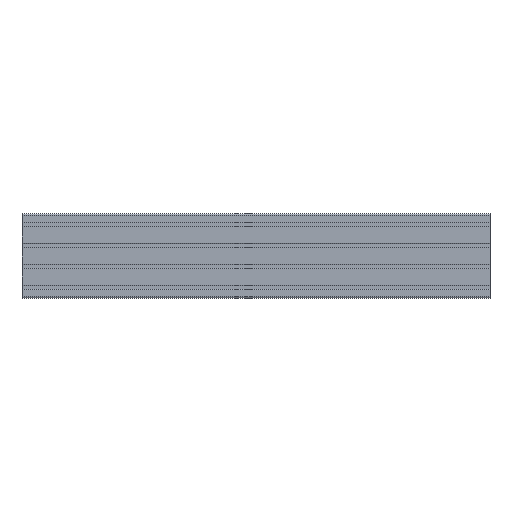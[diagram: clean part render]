
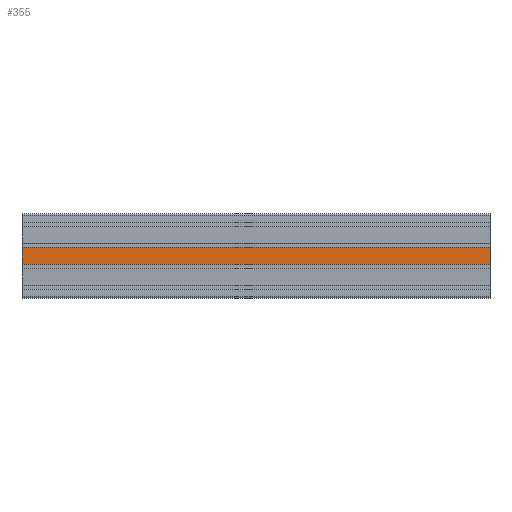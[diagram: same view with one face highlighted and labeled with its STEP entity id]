
A CAD part, top view. The second image highlights one B-rep face of the part: STEP entity #355.
In plain terms, the highlighted planar face has unit normal (0, 0, 1).
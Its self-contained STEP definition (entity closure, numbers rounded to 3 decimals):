
#355 = ADVANCED_FACE ( 'NONE', ( #11067 ), #17740, .F. ) ;
#628 = ORIENTED_EDGE ( 'NONE', *, *, #8828, .F. ) ;
#1111 = DIRECTION ( 'NONE',  ( -1., 0., 0. ) ) ;
#1618 = CARTESIAN_POINT ( 'NONE',  ( 1000., 18.1, 45. ) ) ;
#3577 = ORIENTED_EDGE ( 'NONE', *, *, #8143, .T. ) ;
#4454 = CARTESIAN_POINT ( 'NONE',  ( 1000., 18.1, 45. ) ) ;
#5371 = VECTOR ( 'NONE', #7829, 1000. ) ;
#5713 = EDGE_CURVE ( 'NONE', #20908, #7038, #12398, .T. ) ;
#6100 = LINE ( 'NONE', #16030, #5371 ) ;
#6180 = DIRECTION ( 'NONE',  ( -1., 0., 0. ) ) ;
#6714 = LINE ( 'NONE', #14814, #14255 ) ;
#7038 = VERTEX_POINT ( 'NONE', #10119 ) ;
#7829 = DIRECTION ( 'NONE',  ( 0., -1., 0. ) ) ;
#8033 = DIRECTION ( 'NONE',  ( 0., 0., -1. ) ) ;
#8143 = EDGE_CURVE ( 'NONE', #17007, #20908, #14597, .T. ) ;
#8828 = EDGE_CURVE ( 'NONE', #17007, #18306, #6100, .T. ) ;
#9193 = VECTOR ( 'NONE', #6180, 1000. ) ;
#9264 = CARTESIAN_POINT ( 'NONE',  ( 0., 18.1, 45. ) ) ;
#10119 = CARTESIAN_POINT ( 'NONE',  ( 0., -18.1, 45. ) ) ;
#10782 = DIRECTION ( 'NONE',  ( 0., -1., 0. ) ) ;
#10851 = VECTOR ( 'NONE', #10782, 1000. ) ;
#11067 = FACE_OUTER_BOUND ( 'NONE', #15985, .T. ) ;
#11227 = ORIENTED_EDGE ( 'NONE', *, *, #18388, .F. ) ;
#12398 = LINE ( 'NONE', #9264, #10851 ) ;
#13309 = DIRECTION ( 'NONE',  ( -1., 0., 0. ) ) ;
#13394 = AXIS2_PLACEMENT_3D ( 'NONE', #14405, #8033, #1111 ) ;
#14187 = CARTESIAN_POINT ( 'NONE',  ( 1000., -18.1, 45. ) ) ;
#14255 = VECTOR ( 'NONE', #13309, 1000. ) ;
#14405 = CARTESIAN_POINT ( 'NONE',  ( 1000., 18.1, 45. ) ) ;
#14597 = LINE ( 'NONE', #1618, #9193 ) ;
#14814 = CARTESIAN_POINT ( 'NONE',  ( 1000., -18.1, 45. ) ) ;
#14816 = ORIENTED_EDGE ( 'NONE', *, *, #5713, .T. ) ;
#15985 = EDGE_LOOP ( 'NONE', ( #14816, #11227, #628, #3577 ) ) ;
#16030 = CARTESIAN_POINT ( 'NONE',  ( 1000., 18.1, 45. ) ) ;
#17007 = VERTEX_POINT ( 'NONE', #4454 ) ;
#17740 = PLANE ( 'NONE',  #13394 ) ;
#18306 = VERTEX_POINT ( 'NONE', #14187 ) ;
#18332 = CARTESIAN_POINT ( 'NONE',  ( 0., 18.1, 45. ) ) ;
#18388 = EDGE_CURVE ( 'NONE', #18306, #7038, #6714, .T. ) ;
#20908 = VERTEX_POINT ( 'NONE', #18332 ) ;
